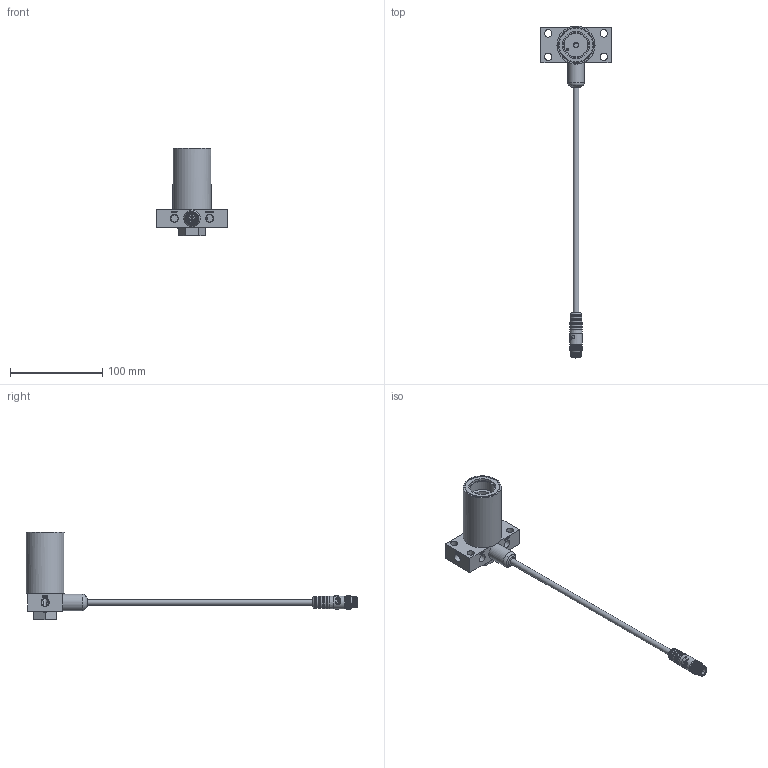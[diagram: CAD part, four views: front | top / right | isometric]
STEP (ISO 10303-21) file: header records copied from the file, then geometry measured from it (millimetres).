
FILE_DESCRIPTION(/* description */ ('ASSY,BODY,VF,IA,SXKR4,NHP_0002716420'),/* implementation_level */ '2;1');
FILE_NAME(/* name */ 'X:\ASSY,BODY,VF,IA,SXKR4,NHP_0002716420.stp',/* time_stamp */ '2021-07-07T14:11:37-04:00',/* author */ ('Simon.Britton'),/* organization */ (''),/* preprocessor_version */ 'ST-DEVELOPER v17',/* originating_system */ 'Autodesk Inventor 2019',/* authorisation */ '');
FILE_SCHEMA (('AUTOMOTIVE_DESIGN { 1 0 10303 214 3 1 1 }'));
Length unit declared in the file: millimetre
Products named in the file (1): ASSY,BODY,VF,IA,SXKR4,NHP_0002716420
Bounding box: 76.2 x 360.36 x 95.25 mm (x, y, z)
Volume: 129473.1 mm3; surface area: 65191.9 mm2
Topology: 2 solids, 18 shells, 3686 faces, 8742 edges, 5194 vertices
Faces by surface type: bspline 2433, cylinder 615, plane 553, cone 52, torus 20, sphere 13
Full cylindrical faces by diameter (mm): 1 x5, 1.05 x5, 1.25 x10, 1.35 x5, 1.6 x10, 1.8 x5, 1.85 x5, 2 x1, 2.381 x6, 2.7 x1, 3.251 x1, 4.366 x1, 4.496 x5, 4.763 x3, 4.8 x3, 6.35 x3, 7.938 x4, 7.95 x5, 9.4 x1, 9.7 x2, 10.6 x2, 10.9 x1, 12 x4, 12.7 x2, 13.716 x1, 14 x1, 15.875 x1, 16.272 x1, 18 x1, 25.425 x1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
Entity records: 247308 total; most frequent: CARTESIAN_POINT 168712, ORIENTED_EDGE 17456, DIRECTION 12519, EDGE_CURVE 8728, AXIS2_PLACEMENT_3D 5471, VERTEX_POINT 5195, CIRCLE 4167, EDGE_LOOP 3851
